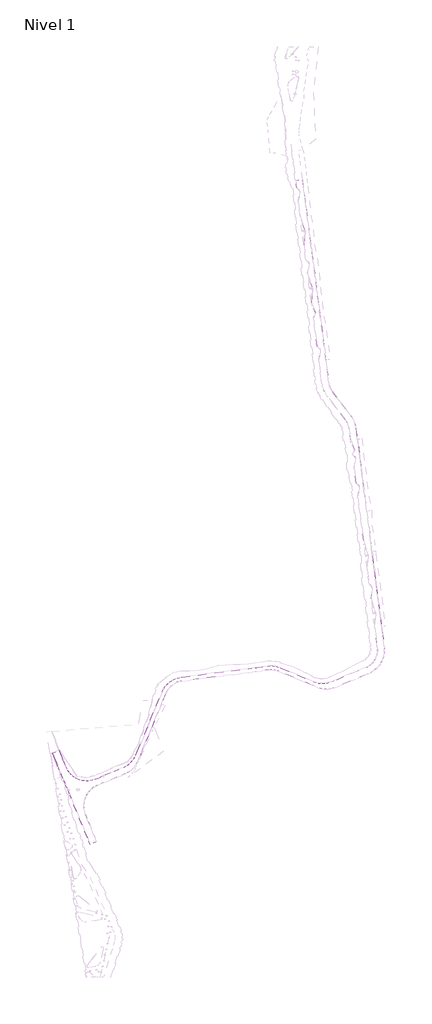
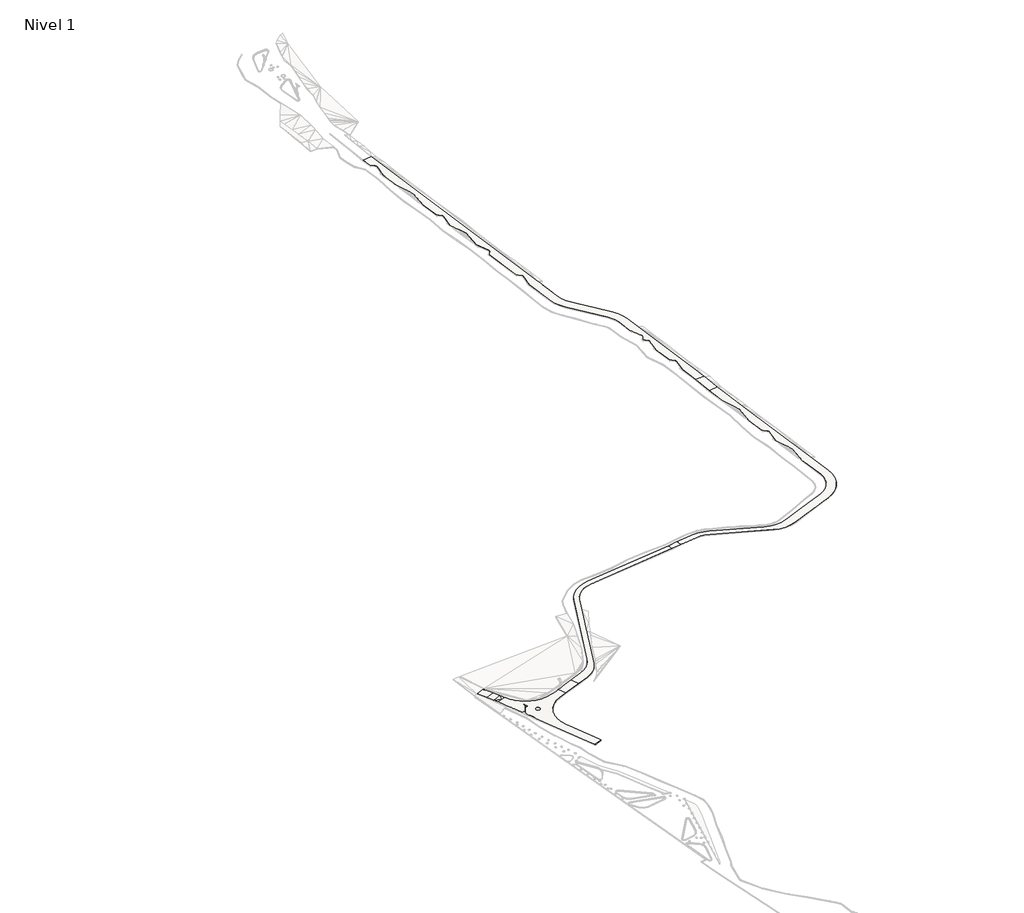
# One storey, part 29 of 45: 1 slab.
"""IFC4 building model written with IfcOpenShell, lengths in millimetres."""

from ifc_helpers import new_model, si_unit, frame, origin, place, context, project, spatial, polyline, circle_curve, element, save
from ifc_brep_helpers import plane_surface, cylinder_surface, revolved_surface, spline_surface, advanced_brep

model = new_model("IFC4")

# Units and contexts
model_context = context("Model", 3, world=origin())
ifc_project = project(units=[si_unit("LENGTHUNIT", "METRE", prefix="MILLI")], contexts=[model_context])

# Site, building, storey
site = spatial("IfcSite", under=ifc_project)
building = spatial("IfcBuilding", under=site)
storey = spatial("IfcBuildingStorey", under=building, Name="Nivel 1", Elevation=0.0)

# Slab
placement = place(None, origin())
element("IfcSlab", 1, ObjectType="Tierra Compactada", at=placement, inside=storey, context=model_context, shape_type="AdvancedBrep", body=[
    advanced_brep(
    [(-352665.3018299, 336963.197176, 4400.0), (-352665.3018299, 336963.197176, 4750.0), (-357011.1986247, 335173.4534492, 4750.0), (-357011.1986247, 335173.4534492, 4400.0), (-358915.1811182, 339796.7474214, 4750.0), (-370076.2675621, 366898.353583, 4750.0), (-370076.2675621, 366898.353583, 4400.0), (-358915.1811182, 339796.7474214, 4400.0), (-382908.3949289, 398057.6196509, 3713.25037), (-382908.3949289, 398057.6196509, 4063.25037), (-378562.4990268, 399847.3630097, 4063.25037), (-378562.4990268, 399847.3630097, 3713.25037), (-376471.3000723, 394769.466992, 4368.6279416), (-374848.2666468, 390828.3809703, 4605.6393485), (-373859.6975063, 388427.9152992, 4750.0), (-373859.6975063, 388427.9152992, 4400.0), (-374848.2666468, 390828.3809703, 4255.6393485), (-376471.3000723, 394769.466992, 4018.6279416), (-346322.2966148, 383221.7255332, 4304.0456139), (-346322.2966148, 383221.7255332, 4654.0456139), (-340624.7029284, 385568.1302011, 4500.0), (-340624.7029284, 385568.1302011, 4150.0), (-334049.1688312, 388276.09163, 4500.0), (-334049.1688312, 388276.09163, 4150.0), (-325751.9814359, 396539.4703663, 4500.0), (-325751.9814359, 396539.4703663, 4150.0), (-307635.1753968, 440025.9933123, 4500.0), (-307635.1753968, 440025.9933123, 4150.0), (-294501.2773884, 450046.7871218, 4500.0), (-294501.2773884, 450046.7871218, 4150.0), (-248539.8625301, 455936.3664275, 4500.0), (-243580.4146112, 456571.8791053, 4750.0), (-235024.9464339, 457668.1923603, 4750.0), (-235024.9464339, 457668.1923603, 4400.0), (-243580.4146111, 456571.8791053, 4400.0), (-248539.8625301, 455936.3664275, 4150.0), (-234681.7696475, 454990.0904778, 4400.0), (-234681.7696475, 454990.0904778, 4750.0), (-243237.2377654, 453893.7772305, 4750.0), (-248196.6856832, 453258.264553, 4500.0), (-294158.1005383, 447368.6852481, 4500.0), (-294158.1005383, 447368.6852481, 4150.0), (-248196.6856832, 453258.264553, 4150.0), (-243237.2377654, 453893.7772305, 4400.0), (-305142.8152393, 438987.6576961, 4500.0), (-305142.8152393, 438987.6576961, 4150.0), (-324825.226723, 391743.1468952, 4500.0), (-324825.226723, 391743.1468952, 4150.0), (-332959.7241698, 383641.7951927, 4500.0), (-332959.7241698, 383641.7951927, 4150.0), (-338834.9592686, 381222.2335523, 4500.0), (-348081.5608771, 377414.2629608, 4750.0), (-352096.4499143, 375760.8361096, 4750.0), (-352096.4499143, 375760.8361096, 4400.0), (-348081.5608771, 377414.2629608, 4400.0), (-338834.9592686, 381222.2335523, 4150.0), (-360417.5437535, 355787.368954, 4750.0), (-360417.5437535, 355787.368954, 4400.0), (-358326.2992921, 350709.3611422, 4750.0), (-358326.2992921, 350709.3611422, 4400.0), (-354569.2844071, 341586.4913692, 4750.0), (-354569.2844071, 341586.4913692, 4400.0), (-226582.3702869, 456533.104083, 4750.0), (-226582.3702869, 456533.104083, 4400.0), (-203462.4920098, 446901.1923558, 4750.0), (-203462.4920098, 446901.1923558, 4400.0), (-191752.4033991, 446877.2860109, 4750.0), (-191752.4033991, 446877.2860109, 4400.0), (-187940.3370927, 448447.18563, 4750.0), (-187940.3370927, 448447.18563, 4400.0), (-167651.977673, 456802.4148667, 4750.0), (-167651.977673, 456802.4148667, 4400.0), (-159832.2945725, 470282.8722606, 4750.0), (-159832.2945725, 470282.8722606, 4400.0), (-161624.826915, 484116.6855752, 4750.0), (-161624.826915, 484116.6855752, 4400.0), (-179317.6514514, 620660.5156819, 4900.0), (-179317.6514514, 620660.5156819, 5250.0), (-181840.7207033, 626787.0903533, 5250.0), (-181840.7207033, 626787.0903533, 4900.0), (-194531.0540131, 643395.5499659, 5250.0), (-194531.0540131, 643395.5499659, 4900.0), (-197980.6257425, 651771.8087073, 4900.0), (-197980.6257425, 651771.8087073, 5250.0), (-199977.9890221, 667186.3984903, 5250.0), (-199977.9890221, 667186.3984903, 4900.0), (-216043.4396896, 791171.0207414, 4900.0), (-216043.4396896, 791171.0207414, 5250.0), (-211382.4061344, 791774.9795489, 5250.0), (-211382.4061344, 791774.9795489, 4900.0), (-193319.5921919, 652375.7675163, 5250.0), (-193319.5921919, 652375.7675163, 4900.0), (-190796.522939, 646249.192842, 5250.0), (-190796.522939, 646249.192842, 4900.0), (-178106.1266431, 629640.6507967, 5250.0), (-178106.1266431, 629640.6507967, 4900.0), (-174656.6179001, 621264.4744874, 5250.0), (-174656.6179001, 621264.4744874, 4900.0), (-167246.1137856, 564074.1365201, 5250.0), (-165961.0950468, 554157.0438593, 4750.0), (-155171.2610218, 470886.8310678, 4750.0), (-155171.2610218, 470886.8310678, 4400.0), (-165961.0950468, 554157.0438593, 4400.0), (-167246.1137856, 564074.1365201, 4900.0), (-165862.2340133, 452456.5182234, 4750.0), (-165862.2340133, 452456.5182234, 4400.0), (-189262.3607157, 442819.7891691, 4750.0), (-189262.3607157, 442819.7891691, 4400.0), (-200742.839752, 442843.2267494, 4750.0), (-200742.839752, 442843.2267494, 4400.0), (-227620.7059592, 454040.7439218, 4750.0), (-227620.7059592, 454040.7439218, 4400.0), (-349858.7717303, 381729.7271639, 4750.0), (-350739.6203091, 381132.1965339, 4750.0), (-352681.4037846, 380332.5239002, 4750.0), (-353886.1935709, 380106.7327556, 4750.0), (-365596.2949471, 380130.6444072, 4750.0), (-367357.9476604, 381001.2663959, 4750.0), (-376013.4375482, 387486.8102321, 4750.0), (-378205.5698705, 386638.1119516, 4750.0), (-375795.5826574, 380786.1257105, 4750.0), (-374293.1443412, 377137.870522, 4750.0), (-373191.2603463, 374462.250526, 4750.0), (-372503.0625823, 373447.6718442, 4750.0), (-372015.6430627, 372264.1085187, 4750.0), (-371789.8518924, 371059.3183605, 4750.0), (-371101.7313437, 370044.9268375, 4750.0), (-370302.0587067, 368103.1433639, 4750.0), (-366378.1764563, 372855.3859913, 4750.0), (-364278.1764563, 372855.3859913, 4750.0), (-370302.0587067, 368103.1433639, 4400.0), (-371101.7313437, 370044.9268375, 4400.0), (-371789.8518924, 371059.3183605, 4400.0), (-372015.6430627, 372264.1085187, 4400.0), (-372503.0625823, 373447.6718442, 4400.0), (-373191.2603463, 374462.250526, 4400.0), (-374293.1443412, 377137.870522, 4400.0), (-375795.5826574, 380786.1257105, 4400.0), (-378205.5698705, 386638.1119516, 4400.0), (-376013.4375482, 387486.8102321, 4400.0), (-367357.9476604, 381001.2663959, 4400.0), (-365596.2949471, 380130.6444072, 4400.0), (-353886.1935709, 380106.7327556, 4400.0), (-352681.4037846, 380332.5239002, 4400.0), (-350739.6203091, 381132.1965339, 4400.0), (-349858.7717303, 381729.7271639, 4400.0), (-366378.1764563, 372855.3859913, 4400.0), (-364278.1764563, 372855.3859913, 4400.0), (-170622.1285981, 553553.0850515, 4750.0), (-169338.6081218, 543647.5551851, 4750.0), (-166066.5549083, 533976.2516549, 4750.0), (-166765.7924631, 523791.9293428, 4750.0), (-165488.2655648, 513932.6547307, 4750.0), (-163586.1223863, 512101.9743274, 4750.0), (-163236.5023, 511156.3870508, 4750.0), (-164192.0958272, 503958.9271977, 4750.0), (-160925.4082257, 494303.510444, 4750.0), (-160925.4082257, 494303.510444, 4400.0), (-164192.0958272, 503958.9271977, 4400.0), (-163236.5023, 511156.3870508, 4400.0), (-163586.1223863, 512101.9743274, 4400.0), (-165488.2655648, 513932.6547307, 4400.0), (-166765.7924631, 523791.9293428, 4400.0), (-166066.5549083, 533976.2516549, 4400.0), (-169338.6081218, 543647.5551851, 4400.0), (-170622.1285981, 553553.0850515, 4400.0), (-215407.785206, 786265.376782, 5250.0), (-213499.824294, 784429.0744036, 5250.0), (-213154.1222704, 783498.4930944, 5250.0), (-214113.2176747, 776274.5916073, 5250.0), (-212832.794568, 766392.9655953, 5250.0), (-209559.6675729, 756718.4882576, 5250.0), (-210259.1362671, 746530.8366807, 5250.0), (-208982.6381189, 736679.5014153, 5250.0), (-207073.2746585, 734841.8411961, 5250.0), (-206730.6761136, 733903.0743397, 5250.0), (-207686.2689375, 726705.5542697, 5250.0), (-204419.5906198, 717050.1374763, 5250.0), (-205117.6837799, 706882.520338, 5250.0), (-202359.121557, 700167.9750214, 5250.0), (-202454.2396451, 699168.1953076, 5250.0), (-203829.3073429, 696908.8293797, 5250.0), (-201272.1748478, 677174.2378634, 5250.0), (-199366.6807698, 675339.993084, 5250.0), (-199019.9175106, 674397.0706424, 5250.0), (-178334.7850986, 613075.2747819, 5250.0), (-175570.7025337, 606344.7661615, 5250.0), (-175664.8189893, 605346.2677528, 5250.0), (-177005.5067574, 603144.0704339, 5250.0), (-175146.8008777, 601355.1954069, 5250.0), (-174802.4048673, 600414.6819461, 5250.0), (-175759.8489322, 593203.2839796, 5250.0), (-174483.8900528, 583356.1105053, 5250.0), (-172579.5480736, 581523.3410137, 5250.0), (-172232.6922349, 580580.46722, 5250.0), (-173189.9699727, 573370.3220163, 5250.0), (-171907.1473369, 563470.1777123, 5250.0), (-171907.1473369, 563470.1777123, 4900.0), (-173189.9699727, 573370.3220163, 4900.0), (-172232.6922349, 580580.46722, 4900.0), (-172579.5480736, 581523.3410137, 4900.0), (-174483.8900528, 583356.1105053, 4900.0), (-175759.8489322, 593203.2839796, 4900.0), (-174802.4048673, 600414.6819461, 4900.0), (-175146.8008777, 601355.1954069, 4900.0), (-177005.5067574, 603144.0704339, 4900.0), (-175664.8189893, 605346.2677528, 4900.0), (-175570.7025337, 606344.7661615, 4900.0), (-178334.7850986, 613075.2747819, 4900.0), (-199019.9175106, 674397.0706424, 4900.0), (-199366.6807698, 675339.993084, 4900.0), (-201272.1748478, 677174.2378634, 4900.0), (-203829.3073429, 696908.8293797, 4900.0), (-202454.2396451, 699168.1953076, 4900.0), (-202359.121557, 700167.9750214, 4900.0), (-205117.6837799, 706882.520338, 4900.0), (-204419.5906198, 717050.1374763, 4900.0), (-207686.2689375, 726705.5542697, 4900.0), (-206730.6761136, 733903.0743397, 4900.0), (-207073.2746585, 734841.8411961, 4900.0), (-208982.6381189, 736679.5014153, 4900.0), (-210259.1362671, 746530.8366807, 4900.0), (-209559.6675729, 756718.4882576, 4900.0), (-212832.794568, 766392.9655953, 4900.0), (-214113.2176747, 776274.5916073, 4900.0), (-213154.1222704, 783498.4930944, 4900.0), (-213499.824294, 784429.0744036, 4900.0), (-215407.785206, 786265.376782, 4900.0), (-379194.163178, 389038.6369011, 4613.5820954), (-380817.1962591, 392979.7230645, 4381.4217524), (-380817.1962591, 392979.7230645, 4031.4217524), (-379194.163178, 389038.6369011, 4263.5820954), (-349725.228789, 381820.3170789, 4746.0505558), (-349725.228789, 381820.3170789, 4396.0505558), (-348520.4386289, 382046.1082482, 4716.0505883), (-348520.4386289, 382046.1082482, 4366.0505883), (-347336.8753034, 382533.527766, 4684.050634), (-347336.8753034, 382533.527766, 4334.050634)],
    [
        (0, 1),
        (1, 2),
        (2, 3),
        (3, 0),
        (2, 4),
        (4, 5),
        (5, 6),
        (6, 7),
        (7, 3),
        (8, 9),
        (9, 10),
        (10, 11),
        (11, 8),
        (10, 12),
        (12, 13),
        (13, 14),
        (14, 15),
        (15, 16),
        (16, 17),
        (17, 11),
        (18, 19),
        (19, 20),
        (20, 21),
        (21, 18),
        (20, 22),
        (22, 23),
        (23, 21),
        (22, 24, circle_curve(frame((-339875.3556572, 402423.3721835, 4500.0), z_axis=(0.0, 0.0, 1.0), x_axis=(1.0, 0.0, 0.0)), 15299.9999997)),
        (24, 25),
        (25, 23, circle_curve(frame((-339875.3556572, 402423.3721835, 4150.0), z_axis=(0.0, 0.0, -1.0), x_axis=(1.0, 0.0, 0.0)), 15299.9999997)),
        (24, 26),
        (26, 27),
        (27, 25),
        (26, 28, circle_curve(frame((-292404.0855532, 433680.6090008, 4500.0), z_axis=(0.0, 0.0, -1.0), x_axis=(1.0, 0.0, 0.0)), 16499.9999964)),
        (28, 29),
        (29, 27, circle_curve(frame((-292404.0855532, 433680.6090008, 4150.0), z_axis=(0.0, 0.0, 1.0), x_axis=(1.0, 0.0, 0.0)), 16499.9999964)),
        (28, 30),
        (30, 31),
        (31, 32),
        (32, 33),
        (33, 34),
        (34, 35),
        (35, 29),
        (36, 37),
        (37, 38),
        (38, 39),
        (39, 40),
        (40, 41),
        (41, 42),
        (42, 43),
        (43, 36),
        (40, 44, circle_curve(frame((-292404.0855485, 433680.6089977, 4500.0), z_axis=(0.0, 0.0, 1.0), x_axis=(1.0, 0.0, 0.0)), 13800.0000008)),
        (44, 45),
        (45, 41, circle_curve(frame((-292404.0855485, 433680.6089977, 4150.0), z_axis=(0.0, 0.0, -1.0), x_axis=(1.0, 0.0, 0.0)), 13800.0000008)),
        (44, 46),
        (46, 47),
        (47, 45),
        (46, 48, circle_curve(frame((-338671.6720387, 397511.678089, 4500.0), z_axis=(0.0, 0.0, -1.0), x_axis=(1.0, 0.0, 0.0)), 15000.0000004)),
        (48, 49),
        (49, 47, circle_curve(frame((-338671.6720387, 397511.678089, 4150.0), z_axis=(0.0, 0.0, 1.0), x_axis=(1.0, 0.0, 0.0)), 15000.0000004)),
        (48, 50),
        (50, 51),
        (51, 52),
        (52, 53),
        (53, 54),
        (54, 55),
        (55, 49),
        (52, 56, circle_curve(frame((-346270.263105, 361613.5555492, 4750.0), z_axis=(0.0, 0.0, 1.0), x_axis=(1.0, 0.0, 0.0)), 15299.9999997)),
        (56, 57),
        (57, 53, circle_curve(frame((-346270.263105, 361613.5555492, 4400.0), z_axis=(0.0, 0.0, -1.0), x_axis=(1.0, 0.0, 0.0)), 15299.9999997)),
        (56, 58),
        (58, 59),
        (59, 57),
        (58, 60),
        (60, 1),
        (0, 61),
        (61, 59),
        (32, 62, circle_curve(frame((-232927.7545984, 441302.0142372, 4750.0), z_axis=(0.0, 0.0, -1.0), x_axis=(1.0, 0.0, 0.0)), 16499.9999986)),
        (62, 63),
        (63, 33, circle_curve(frame((-232927.7545984, 441302.0142372, 4400.0), z_axis=(0.0, 0.0, 1.0), x_axis=(1.0, 0.0, 0.0)), 16499.9999986)),
        (62, 64),
        (64, 65),
        (65, 63),
        (64, 66, circle_curve(frame((-197578.5901933, 461024.5665775, 4750.0), z_axis=(0.0, 0.0, 1.0), x_axis=(1.0, 0.0, 0.0)), 15299.9999998)),
        (66, 67),
        (67, 65, circle_curve(frame((-197578.5901933, 461024.5665775, 4400.0), z_axis=(0.0, 0.0, -1.0), x_axis=(1.0, 0.0, 0.0)), 15299.9999998)),
        (66, 68),
        (68, 69),
        (69, 67),
        (68, 70),
        (70, 71),
        (71, 69),
        (70, 72, circle_curve(frame((-172526.173178, 468638.048275, 4750.0), z_axis=(0.0, 0.0, 1.0), x_axis=(1.0, 0.0, 0.0)), 12799.9999999)),
        (72, 73),
        (73, 71, circle_curve(frame((-172526.173178, 468638.048275, 4400.0), z_axis=(0.0, 0.0, -1.0), x_axis=(1.0, 0.0, 0.0)), 12799.9999999)),
        (72, 74),
        (74, 75),
        (75, 73),
        (76, 77),
        (77, 78, circle_curve(frame((-192011.530057, 619015.6916963, 5250.0), z_axis=(0.0, 0.0, 1.0), x_axis=(1.0, 0.0, 0.0)), 12799.9999999)),
        (78, 79),
        (79, 76, circle_curve(frame((-192011.530057, 619015.6916963, 4900.0), z_axis=(0.0, 0.0, -1.0), x_axis=(1.0, 0.0, 0.0)), 12799.9999999)),
        (78, 80),
        (80, 81),
        (81, 79),
        (82, 83),
        (83, 84),
        (84, 85),
        (85, 82),
        (86, 87),
        (87, 88),
        (88, 89),
        (89, 86),
        (88, 90),
        (90, 91),
        (91, 89),
        (90, 92, circle_curve(frame((-180625.7135814, 654020.591502, 5250.0), z_axis=(0.0, 0.0, 1.0), x_axis=(1.0, 0.0, 0.0)), 12800.0000047)),
        (92, 93),
        (93, 91, circle_curve(frame((-180625.7135814, 654020.591502, 4900.0), z_axis=(0.0, 0.0, -1.0), x_axis=(1.0, 0.0, 0.0)), 12800.0000047)),
        (92, 94),
        (94, 95),
        (95, 93),
        (94, 96, circle_curve(frame((-192011.5300574, 619015.6916944, 5250.0), z_axis=(0.0, 0.0, -1.0), x_axis=(1.0, 0.0, 0.0)), 17500.000001)),
        (96, 97),
        (97, 95, circle_curve(frame((-192011.5300574, 619015.6916944, 4900.0), z_axis=(0.0, 0.0, 1.0), x_axis=(1.0, 0.0, 0.0)), 17500.000001)),
        (96, 98),
        (98, 99),
        (99, 100),
        (100, 101),
        (101, 102),
        (102, 103),
        (103, 97),
        (100, 104, circle_curve(frame((-172526.173178, 468638.0482749, 4750.0), z_axis=(0.0, 0.0, -1.0), x_axis=(1.0, 0.0, 0.0)), 17500.0)),
        (104, 105),
        (105, 101, circle_curve(frame((-172526.173178, 468638.0482749, 4400.0), z_axis=(0.0, 0.0, 1.0), x_axis=(1.0, 0.0, 0.0)), 17500.0)),
        (104, 106),
        (106, 107),
        (107, 105),
        (106, 108, circle_curve(frame((-194974.3085717, 456689.672072, 4750.0), z_axis=(0.0, 0.0, -1.0), x_axis=(1.0, 0.0, 0.0)), 15000.0000017)),
        (108, 109),
        (109, 107, circle_curve(frame((-194974.3085717, 456689.672072, 4400.0), z_axis=(0.0, 0.0, 1.0), x_axis=(1.0, 0.0, 0.0)), 15000.0000017)),
        (108, 110),
        (110, 111),
        (111, 109),
        (110, 37, circle_curve(frame((-232927.7546545, 441302.0142024, 4750.0), z_axis=(0.0, 0.0, 1.0), x_axis=(1.0, 0.0, 0.0)), 13800.000026)),
        (36, 111, circle_curve(frame((-232927.7546545, 441302.0142024, 4400.0), z_axis=(0.0, 0.0, -1.0), x_axis=(1.0, 0.0, 0.0)), 13800.000026)),
        (51, 112),
        (112, 113),
        (113, 114),
        (114, 115),
        (115, 116, circle_curve(frame((-359712.3803791, 394254.0133172, 4750.0), z_axis=(0.0, 0.0, -1.0), x_axis=(1.0, 0.0, 0.0)), 15300.0000004)),
        (116, 117, circle_curve(frame((-359712.3803791, 394254.0133172, 4750.0), z_axis=(0.0, 0.0, -1.0), x_axis=(1.0, 0.0, 0.0)), 15300.0000004)),
        (117, 14, circle_curve(frame((-359712.3803791, 394254.0133172, 4750.0), z_axis=(0.0, 0.0, -1.0), x_axis=(1.0, 0.0, 0.0)), 15300.0000004)),
        (14, 118),
        (118, 119),
        (119, 120),
        (120, 121),
        (121, 122),
        (122, 123),
        (123, 124),
        (124, 125),
        (125, 126),
        (126, 127),
        (127, 5),
        (128, 129, circle_curve(frame((-365328.1764563, 372855.3859913, 4750.0), z_axis=(0.0, 0.0, -1.0), x_axis=(1.0, 0.0, 0.0)), 1050.0)),
        (129, 128, circle_curve(frame((-365328.1764563, 372855.3859913, 4750.0), z_axis=(0.0, 0.0, -1.0), x_axis=(1.0, 0.0, 0.0)), 1050.0)),
        (6, 130),
        (130, 131),
        (131, 132),
        (132, 133),
        (133, 134),
        (134, 135),
        (135, 136),
        (136, 137),
        (137, 138),
        (138, 139),
        (139, 15),
        (15, 140, circle_curve(frame((-359712.3803791, 394254.0133172, 4400.0), z_axis=(0.0, 0.0, 1.0), x_axis=(1.0, 0.0, 0.0)), 15300.0000004)),
        (140, 141, circle_curve(frame((-359712.3803791, 394254.0133172, 4400.0), z_axis=(0.0, 0.0, 1.0), x_axis=(1.0, 0.0, 0.0)), 15300.0000004)),
        (141, 142, circle_curve(frame((-359712.3803791, 394254.0133172, 4400.0), z_axis=(0.0, 0.0, 1.0), x_axis=(1.0, 0.0, 0.0)), 15300.0000004)),
        (142, 143),
        (143, 144),
        (144, 145),
        (145, 54),
        (146, 147, circle_curve(frame((-365328.1764563, 372855.3859913, 4400.0), z_axis=(0.0, 0.0, 1.0), x_axis=(1.0, 0.0, 0.0)), 1050.0)),
        (147, 146, circle_curve(frame((-365328.1764563, 372855.3859913, 4400.0), z_axis=(0.0, 0.0, 1.0), x_axis=(1.0, 0.0, 0.0)), 1050.0)),
        (39, 30),
        (20, 50),
        (55, 21),
        (35, 42),
        (99, 148),
        (148, 149),
        (149, 150),
        (150, 151),
        (151, 152),
        (152, 153),
        (153, 154, circle_curve(frame((-164380.8044938, 511270.7220489, 4750.0), z_axis=(0.0, 0.0, -1.0), x_axis=(1.0, 0.0, 0.0)), 1150.0000011)),
        (154, 155),
        (155, 156),
        (156, 74),
        (31, 38),
        (43, 34),
        (75, 157),
        (157, 158),
        (158, 159),
        (159, 160, circle_curve(frame((-164380.8044938, 511270.7220489, 4400.0), z_axis=(0.0, 0.0, 1.0), x_axis=(1.0, 0.0, 0.0)), 1150.0000011)),
        (160, 161),
        (161, 162),
        (162, 163),
        (163, 164),
        (164, 165),
        (165, 102),
        (87, 166),
        (166, 167),
        (167, 168, circle_curve(frame((-214299.4041498, 783602.5350161, 5250.0), z_axis=(0.0, 0.0, -1.0), x_axis=(1.0, 0.0, 0.0)), 1149.9979587)),
        (168, 169),
        (169, 170),
        (170, 171),
        (171, 172),
        (172, 173),
        (173, 174),
        (174, 175, circle_curve(frame((-207874.9829101, 734017.3632527, 5250.0), z_axis=(0.0, 0.0, -1.0), x_axis=(1.0, 0.0, 0.0)), 1150.0)),
        (175, 176),
        (176, 177),
        (177, 178),
        (178, 179),
        (179, 180, circle_curve(frame((-203436.6063179, 699766.0713145, 5250.0), z_axis=(0.0, 0.0, -1.0), x_axis=(1.0, 0.0, 0.0)), 1149.9999998)),
        (180, 181),
        (181, 182),
        (182, 183),
        (183, 184, circle_curve(frame((-200164.2127988, 674511.4747291, 5250.0), z_axis=(0.0, 0.0, -1.0), x_axis=(1.0, 0.0, 0.0)), 1150.0000007)),
        (184, 84),
        (83, 80, circle_curve(frame((-180625.7135884, 654020.5914999, 5250.0), z_axis=(0.0, 0.0, 1.0), x_axis=(1.0, 0.0, 0.0)), 17499.9999978)),
        (77, 185),
        (185, 186),
        (186, 187, circle_curve(frame((-176648.1023864, 605942.6348904, 5250.0), z_axis=(0.0, 0.0, -1.0), x_axis=(1.0, 0.0, 0.0)), 1150.0000009)),
        (187, 188),
        (188, 189),
        (189, 190, circle_curve(frame((-175946.7114283, 600528.9732149, 5250.0), z_axis=(0.0, 0.0, -1.0), x_axis=(1.0, 0.0, 0.0)), 1149.9999998)),
        (190, 191),
        (191, 192),
        (192, 193),
        (193, 194, circle_curve(frame((-173377.0000821, 580694.7456362, 5250.0), z_axis=(0.0, 0.0, -1.0), x_axis=(1.0, 0.0, 0.0)), 1150.0000025)),
        (194, 195),
        (195, 196),
        (196, 98),
        (103, 197),
        (197, 198),
        (198, 199),
        (199, 200, circle_curve(frame((-173377.0000821, 580694.7456362, 4900.0), z_axis=(0.0, 0.0, 1.0), x_axis=(1.0, 0.0, 0.0)), 1150.0000025)),
        (200, 201),
        (201, 202),
        (202, 203),
        (203, 204, circle_curve(frame((-175946.7114283, 600528.9732149, 4900.0), z_axis=(0.0, 0.0, 1.0), x_axis=(1.0, 0.0, 0.0)), 1149.9999998)),
        (204, 205),
        (205, 206),
        (206, 207, circle_curve(frame((-176648.1023864, 605942.6348904, 4900.0), z_axis=(0.0, 0.0, 1.0), x_axis=(1.0, 0.0, 0.0)), 1150.0000009)),
        (207, 208),
        (208, 76),
        (81, 82, circle_curve(frame((-180625.7135884, 654020.5914999, 4900.0), z_axis=(0.0, 0.0, -1.0), x_axis=(1.0, 0.0, 0.0)), 17499.9999978)),
        (85, 209),
        (209, 210, circle_curve(frame((-200164.2127988, 674511.4747291, 4900.0), z_axis=(0.0, 0.0, 1.0), x_axis=(1.0, 0.0, 0.0)), 1150.0000007)),
        (210, 211),
        (211, 212),
        (212, 213),
        (213, 214, circle_curve(frame((-203436.6063179, 699766.0713145, 4900.0), z_axis=(0.0, 0.0, 1.0), x_axis=(1.0, 0.0, 0.0)), 1149.9999998)),
        (214, 215),
        (215, 216),
        (216, 217),
        (217, 218),
        (218, 219, circle_curve(frame((-207874.9829101, 734017.3632527, 4900.0), z_axis=(0.0, 0.0, 1.0), x_axis=(1.0, 0.0, 0.0)), 1150.0)),
        (219, 220),
        (220, 221),
        (221, 222),
        (222, 223),
        (223, 224),
        (224, 225),
        (225, 226, circle_curve(frame((-214299.4041498, 783602.5350161, 4900.0), z_axis=(0.0, 0.0, 1.0), x_axis=(1.0, 0.0, 0.0)), 1149.9979587)),
        (226, 227),
        (227, 86),
        (196, 148),
        (165, 197),
        (127, 130),
        (126, 131),
        (125, 132),
        (124, 133),
        (123, 134),
        (122, 135),
        (119, 228),
        (228, 229),
        (229, 9),
        (8, 230),
        (230, 231),
        (231, 138),
        (115, 142),
        (114, 143),
        (113, 144),
        (112, 232),
        (232, 233),
        (233, 145),
        (232, 234),
        (234, 235),
        (235, 233),
        (234, 236),
        (236, 237),
        (237, 235),
        (236, 19),
        (18, 237),
        (156, 157),
        (155, 158),
        (154, 159),
        (153, 160),
        (152, 161),
        (151, 162),
        (150, 163),
        (149, 164),
        (208, 185),
        (184, 209),
        (183, 210),
        (182, 211),
        (181, 212),
        (180, 213),
        (179, 214),
        (178, 215),
        (177, 216),
        (176, 217),
        (175, 218),
        (174, 219),
        (173, 220),
        (172, 221),
        (171, 222),
        (170, 223),
        (227, 166),
        (229, 12),
        (17, 230),
        (195, 198),
        (194, 199),
        (193, 200),
        (192, 201),
        (191, 202),
        (190, 203),
        (189, 204),
        (188, 205),
        (187, 206),
        (186, 207),
        (169, 224),
        (168, 225),
        (167, 226),
        (146, 128),
        (129, 147),
        (118, 228),
        (231, 139),
        (13, 118),
        (13, 228),
        (139, 16),
        (231, 16),
    ],
    [
        plane_surface(frame((-352665.3018299, 336963.197176, 5150.0), z_axis=(0.3807965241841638, -0.9246588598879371, 0.0), x_axis=(0.0, 0.0, 1.0))),
        plane_surface(frame((-357011.1986247, 335173.4534492, 5150.0), z_axis=(-0.9246588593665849, -0.3807965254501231, 0.0), x_axis=(0.0, 0.0, 1.0))),
        plane_surface(frame((-382908.3949289, 398057.6196509, 5150.0), z_axis=(-0.3807965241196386, 0.9246588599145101, 0.0), x_axis=(0.0, 0.0, 1.0))),
        plane_surface(frame((-378562.4990268, 399847.3630097, 5150.0), z_axis=(0.9246588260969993, 0.38079660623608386, 0.0), x_axis=(0.0, 0.0, 1.0))),
        plane_surface(frame((-346322.2966148, 383221.7255332, 5150.0), z_axis=(-0.3807965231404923, 0.9246588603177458, 0.0), x_axis=(0.0, 0.0, 1.0))),
        plane_surface(frame((-340624.7029284, 385568.1302011, 5150.0), z_axis=(-0.380796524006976, 0.9246588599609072, 0.0), x_axis=(0.0, 0.0, 1.0))),
        revolved_surface(polyline([(-324575.3556575, 402423.3721835, 4500.0), (-324575.3556575, 402423.3721835, 4150.0)]), (-339875.3556572, 402423.3721835, 5500.0), (0.0, 0.0, 1.0)),
        plane_surface(frame((-325751.9814359, 396539.4703663, 5150.0), z_axis=(-0.9230963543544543, 0.3845687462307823, 0.0), x_axis=(0.0, 0.0, 1.0))),
        cylinder_surface(frame((-292404.0855532, 433680.6090008, 5500.0), z_axis=(0.0, 0.0, -1.0), x_axis=(1.0, 0.0, 0.0)), 16499.9999964),
        plane_surface(frame((-294501.2773884, 450046.7871218, 5150.0), z_axis=(-0.12710253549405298, 0.9918895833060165, 0.0), x_axis=(0.0, 0.0, 1.0))),
        plane_surface(frame((-234681.7696475, 454990.0904778, 5150.0), z_axis=(0.12710253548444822, -0.9918895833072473, 0.0), x_axis=(0.0, 0.0, 1.0))),
        revolved_surface(polyline([(-278604.0855477, 433680.6089977, 4500.0), (-278604.0855477, 433680.6089977, 4150.0)]), (-292404.0855485, 433680.6089977, 5500.0), (0.0, 0.0, 1.0)),
        plane_surface(frame((-305142.8152393, 438987.6576961, 5150.0), z_axis=(0.9230963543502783, -0.3845687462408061, 0.0), x_axis=(0.0, 0.0, 1.0))),
        cylinder_surface(frame((-338671.6720387, 397511.678089, 5500.0), z_axis=(0.0, 0.0, -1.0), x_axis=(1.0, 0.0, 0.0)), 15000.0000004),
        plane_surface(frame((-332959.7241842, 383641.7951778, 5150.0), z_axis=(0.3807965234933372, -0.9246588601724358, 0.0), x_axis=(0.0, 0.0, 1.0))),
        revolved_surface(polyline([(-330970.2631053, 361613.5555492, 4750.0), (-330970.2631053, 361613.5555492, 4400.0)]), (-346270.263105, 361613.5555492, 5500.0), (0.0, 0.0, 1.0)),
        plane_surface(frame((-360417.5437535, 355787.368954, 5150.0), z_axis=(0.9246588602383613, 0.3807965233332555, 0.0), x_axis=(0.0, 0.0, 1.0))),
        plane_surface(frame((-358326.2992921, 350709.3611422, 5150.0), z_axis=(0.9246588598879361, 0.38079652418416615, 0.0), x_axis=(0.0, 0.0, 1.0))),
        cylinder_surface(frame((-232927.7545984, 441302.0142372, 5500.0), z_axis=(0.0, 0.0, -1.0), x_axis=(1.0, 0.0, 0.0)), 16499.9999986),
        plane_surface(frame((-226582.3702869, 456533.104083, 5150.0), z_axis=(0.3845687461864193, 0.9230963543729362, 0.0), x_axis=(0.0, 0.0, 1.0))),
        revolved_surface(polyline([(-182278.59019350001, 461024.5665775, 4750.0), (-182278.59019350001, 461024.5665775, 4400.0)]), (-197578.5901933, 461024.5665775, 5500.0), (0.0, 0.0, 1.0)),
        plane_surface(frame((-191752.4033991, 446877.2860109, 5150.0), z_axis=(-0.3807965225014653, 0.9246588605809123, 0.0), x_axis=(0.0, 0.0, 1.0))),
        plane_surface(frame((-187940.3370927, 448447.18563, 5150.0), z_axis=(-0.38079652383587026, 0.9246588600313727, 0.0), x_axis=(0.0, 0.0, 1.0))),
        revolved_surface(polyline([(-159726.1731781, 468638.048275, 4750.0), (-159726.1731781, 468638.048275, 4400.0)]), (-172526.173178, 468638.048275, 5500.0), (0.0, 0.0, 1.0)),
        plane_surface(frame((-159832.2945725, 470282.8722606, 5150.0), z_axis=(-0.991709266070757, -0.12850187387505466, 0.0), x_axis=(0.0, 0.0, 1.0))),
        revolved_surface(polyline([(-179211.5300571, 619015.6916963, 5250.0), (-179211.5300571, 619015.6916963, 4900.0)]), (-192011.530057, 619015.6916963, 5500.0), (0.0, 0.0, 1.0)),
        plane_surface(frame((-181840.7207033, 626787.0903533, 5150.0), z_axis=(-0.7945944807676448, -0.6071405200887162, 0.0), x_axis=(0.0, 0.0, 1.0))),
        plane_surface(frame((-197980.6257425, 651771.8087073, 5150.0), z_axis=(-0.9917092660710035, -0.12850187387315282, 0.0), x_axis=(0.0, 0.0, 1.0))),
        plane_surface(frame((-216043.4396896, 791171.0207414, 5150.0), z_axis=(-0.12850187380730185, 0.9917092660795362, 0.0), x_axis=(0.0, 0.0, 1.0))),
        plane_surface(frame((-211382.4061344, 791774.9795489, 5150.0), z_axis=(0.9917092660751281, 0.12850187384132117, 0.0), x_axis=(0.0, 0.0, 1.0))),
        revolved_surface(polyline([(-167825.71357669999, 654020.591502, 5250.0), (-167825.71357669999, 654020.591502, 4900.0)]), (-180625.7135814, 654020.591502, 5500.0), (0.0, 0.0, 1.0)),
        plane_surface(frame((-190796.522939, 646249.192842, 5150.0), z_axis=(0.7945944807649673, 0.6071405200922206, 0.0), x_axis=(0.0, 0.0, 1.0))),
        cylinder_surface(frame((-192011.5300574, 619015.6916944, 5500.0), z_axis=(0.0, 0.0, -1.0), x_axis=(1.0, 0.0, 0.0)), 17500.000001),
        plane_surface(frame((-174656.6179001, 621264.4744874, 5150.0), z_axis=(0.9917092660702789, 0.1285018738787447, 0.0), x_axis=(0.0, 0.0, 1.0))),
        cylinder_surface(frame((-172526.173178, 468638.0482749, 5500.0), z_axis=(0.0, 0.0, -1.0), x_axis=(1.0, 0.0, 0.0)), 17500.0),
        plane_surface(frame((-165862.2340133, 452456.5182234, 5150.0), z_axis=(0.38079652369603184, -0.9246588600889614, 0.0), x_axis=(0.0, 0.0, 1.0))),
        cylinder_surface(frame((-194974.3085717, 456689.672072, 5500.0), z_axis=(0.0, 0.0, -1.0), x_axis=(1.0, 0.0, 0.0)), 15000.0000017),
        plane_surface(frame((-200742.839752, 442843.2267494, 5150.0), z_axis=(-0.38456874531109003, -0.9230963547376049, 0.0), x_axis=(0.0, 0.0, 1.0))),
        revolved_surface(polyline([(-219127.7546285, 441302.0142024, 4750.0), (-219127.7546285, 441302.0142024, 4400.0)]), (-232927.7546545, 441302.0142024, 5500.0), (0.0, 0.0, 1.0)),
        plane_surface(frame((-363499.8223587, 371749.1005011, 4750.0), z_axis=(0.0, 0.0, 1.0), x_axis=(-0.38079652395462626, 0.9246588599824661, 0.0))),
        plane_surface(frame((-363499.8223587, 371749.1005011, 4400.0), z_axis=(0.0, 0.0, -1.0), x_axis=(-0.38079652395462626, 0.9246588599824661, 0.0))),
        plane_surface(frame((-307934.9733444, 417717.885183, 4500.0), z_axis=(0.0, 0.0, 1.0), x_axis=(1.0, 0.0, 0.0))),
        plane_surface(frame((-307934.9733444, 417717.885183, 4150.0), z_axis=(0.0, 0.0, -1.0), x_axis=(1.0, 0.0, 0.0))),
        plane_surface(frame((-186546.6555889, 482335.0426128, 4750.0), z_axis=(0.0, 0.0, 1.0), x_axis=(1.0, 0.0, 0.0))),
        plane_surface(frame((-186546.6555889, 482335.0426128, 4400.0), z_axis=(0.0, 0.0, -1.0), x_axis=(1.0, 0.0, 0.0))),
        plane_surface(frame((-245888.5501475, 454915.0718291, 4625.0), z_axis=(-0.04953260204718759, -0.006347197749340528, 0.9987523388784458), x_axis=(0.12710253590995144, -0.9918895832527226, 0.0))),
        plane_surface(frame((-245888.5501475, 454915.0718291, 4275.0), z_axis=(0.04953260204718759, 0.006347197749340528, -0.9987523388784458), x_axis=(0.12710253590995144, -0.9918895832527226, 0.0))),
        plane_surface(frame((-193465.4673883, 671880.5651474, 5250.0), z_axis=(0.0, 0.0, 1.0), x_axis=(1.0, 0.0, 0.0))),
        plane_surface(frame((-193465.4673883, 671880.5651474, 4900.0), z_axis=(0.0, 0.0, -1.0), x_axis=(1.0, 0.0, 0.0))),
        plane_surface(frame((-168934.1211918, 558813.6107858, 5000.0), z_axis=(0.006417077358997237, -0.049523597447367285, 0.9987523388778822), x_axis=(-0.12834154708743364, 0.9904719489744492, 0.04993761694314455))),
        plane_surface(frame((-168934.1211918, 558813.6107858, 4650.0), z_axis=(-0.006417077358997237, 0.049523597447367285, -0.9987523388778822), x_axis=(-0.12834154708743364, 0.9904719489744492, 0.04993761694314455))),
        plane_surface(frame((-370076.2675621, 366898.353583, 5150.0), z_axis=(-0.982887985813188, -0.1842042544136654, 0.0), x_axis=(0.0, 0.0, 1.0))),
        plane_surface(frame((-370302.0587067, 368103.1433639, 5150.0), z_axis=(-0.9246588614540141, -0.3807965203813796, 0.0), x_axis=(0.0, 0.0, 1.0))),
        plane_surface(frame((-371101.7313437, 370044.9268375, 5150.0), z_axis=(-0.8275578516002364, -0.5613804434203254, 0.0), x_axis=(0.0, 0.0, 1.0))),
        plane_surface(frame((-371789.8518924, 371059.3183605, 5150.0), z_axis=(-0.9828879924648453, -0.1842042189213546, 0.0), x_axis=(0.0, 0.0, 1.0))),
        plane_surface(frame((-372015.6430627, 372264.1085187, 5150.0), z_axis=(-0.9246588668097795, -0.38079650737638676, 0.0), x_axis=(0.0, 0.0, 1.0))),
        plane_surface(frame((-372503.0625823, 373447.6718442, 5150.0), z_axis=(-0.8275767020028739, -0.5613526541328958, 0.0), x_axis=(0.0, 0.0, 1.0))),
        plane_surface(frame((-373191.2603463, 374462.250526, 5150.0), z_axis=(-0.924658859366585, -0.38079652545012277, 0.0), x_axis=(0.0, 0.0, 1.0))),
        revolved_surface(polyline([(-344412.3803787, 394254.0133172, 4750.0), (-344412.3803787, 394254.0133172, 4400.0)]), (-359712.3803791, 394254.0133172, 5500.0), (0.0, 0.0, 1.0)),
        plane_surface(frame((-353886.1935709, 380106.7327556, 5150.0), z_axis=(-0.18420425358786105, 0.9828879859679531, 0.0), x_axis=(0.0, 0.0, 1.0))),
        plane_surface(frame((-352681.4037846, 380332.5239002, 5150.0), z_axis=(-0.3807965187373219, 0.9246588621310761, 0.0), x_axis=(0.0, 0.0, 1.0))),
        plane_surface(frame((-350739.6203091, 381132.1965339, 5150.0), z_axis=(-0.5613804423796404, 0.8275578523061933, 0.0), x_axis=(0.0, 0.0, 1.0))),
        plane_surface(frame((-349725.228789, 381820.3170789, 5150.0), z_axis=(-0.18420421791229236, 0.9828879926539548, 0.0), x_axis=(0.0, 0.0, 1.0))),
        plane_surface(frame((-348520.4386289, 382046.1082482, 5150.0), z_axis=(-0.38079650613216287, 0.9246588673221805, 0.0), x_axis=(0.0, 0.0, 1.0))),
        plane_surface(frame((-347336.8753034, 382533.527766, 5150.0), z_axis=(-0.5613526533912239, 0.8275767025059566, 0.0), x_axis=(0.0, 0.0, 1.0))),
        plane_surface(frame((-161624.826915, 484116.6855752, 5150.0), z_axis=(-0.9976512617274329, 0.06849788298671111, 0.0), x_axis=(0.0, 0.0, 1.0))),
        plane_surface(frame((-160925.4082257, 494303.510444, 5150.0), z_axis=(-0.9472546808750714, -0.3204817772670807, 0.0), x_axis=(0.0, 0.0, 1.0))),
        plane_surface(frame((-164192.0958272, 503958.9271977, 5150.0), z_axis=(-0.9913011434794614, 0.1316132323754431, 0.0), x_axis=(0.0, 0.0, 1.0))),
        revolved_surface(polyline([(-163230.8044927, 511270.7220489, 4750.0), (-163230.8044927, 511270.7220489, 4400.0)]), (-164380.8044938, 511270.7220489, 5500.0), (0.0, 0.0, 1.0)),
        plane_surface(frame((-163586.1223863, 512101.9743274, 5150.0), z_axis=(-0.693442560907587, -0.7205119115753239, 0.0), x_axis=(0.0, 0.0, 1.0))),
        plane_surface(frame((-165488.2655648, 513932.6547307, 5150.0), z_axis=(-0.9917092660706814, -0.12850187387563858, 0.0), x_axis=(0.0, 0.0, 1.0))),
        plane_surface(frame((-166765.7924631, 523791.9293428, 5150.0), z_axis=(-0.9976513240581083, 0.06849697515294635, 0.0), x_axis=(0.0, 0.0, 1.0))),
        plane_surface(frame((-166066.5549083, 533976.2516549, 5150.0), z_axis=(-0.9472549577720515, -0.3204809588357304, 0.0), x_axis=(0.0, 0.0, 1.0))),
        plane_surface(frame((-178334.7850986, 613075.2747819, 5150.0), z_axis=(-0.9917092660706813, -0.12850187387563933, 0.0), x_axis=(0.0, 0.0, 1.0))),
        cylinder_surface(frame((-180625.7135884, 654020.5914999, 5500.0), z_axis=(0.0, 0.0, -1.0), x_axis=(1.0, 0.0, 0.0)), 17499.9999978),
        plane_surface(frame((-199977.9890221, 667186.3984903, 5150.0), z_axis=(-0.9912881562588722, 0.1317110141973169, 0.0), x_axis=(0.0, 0.0, 1.0))),
        revolved_surface(polyline([(-199014.2127981, 674511.4747291, 5250.0), (-199014.2127981, 674511.4747291, 4900.0)]), (-200164.2127988, 674511.4747291, 5500.0), (0.0, 0.0, 1.0)),
        plane_surface(frame((-199366.6729851, 675340.0011711, 5150.0), z_axis=(-0.6935061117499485, -0.7204507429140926, 0.0), x_axis=(0.0, 0.0, 1.0))),
        plane_surface(frame((-201272.1748478, 677174.2378634, 5150.0), z_axis=(-0.9917092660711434, -0.12850187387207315, 0.0), x_axis=(0.0, 0.0, 1.0))),
        plane_surface(frame((-203829.3073429, 696908.8293797, 5150.0), z_axis=(-0.8542318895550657, 0.5198921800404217, 0.0), x_axis=(0.0, 0.0, 1.0))),
        revolved_surface(polyline([(-202286.6063181, 699766.0713145, 5250.0), (-202286.6063181, 699766.0713145, 4900.0)]), (-203436.6063179, 699766.0713145, 5500.0), (0.0, 0.0, 1.0)),
        plane_surface(frame((-202359.121557, 700167.9750214, 5150.0), z_axis=(-0.924980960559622, -0.38001345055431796, 0.0), x_axis=(0.0, 0.0, 1.0))),
        plane_surface(frame((-205117.6837799, 706882.520338, 5150.0), z_axis=(-0.9976513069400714, 0.06849722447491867, 0.0), x_axis=(0.0, 0.0, 1.0))),
        plane_surface(frame((-204419.5906198, 717050.1374763, 5150.0), z_axis=(-0.9472549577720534, -0.32048095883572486, 0.0), x_axis=(0.0, 0.0, 1.0))),
        plane_surface(frame((-207686.2689375, 726705.5542697, 5150.0), z_axis=(-0.9913012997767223, 0.13161205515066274, 0.0), x_axis=(0.0, 0.0, 1.0))),
        revolved_surface(polyline([(-206724.9829101, 734017.3632527, 5250.0), (-206724.9829101, 734017.3632527, 4900.0)]), (-207874.9829101, 734017.3632527, 5500.0), (0.0, 0.0, 1.0)),
        plane_surface(frame((-207073.2746585, 734841.8411962, 5150.0), z_axis=(-0.6934485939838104, -0.7205061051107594, 0.0), x_axis=(0.0, 0.0, 1.0))),
        plane_surface(frame((-208982.6381189, 736679.5014153, 5150.0), z_axis=(-0.9917092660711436, -0.12850187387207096, 0.0), x_axis=(0.0, 0.0, 1.0))),
        plane_surface(frame((-210259.1362671, 746530.8366807, 5150.0), z_axis=(-0.9976513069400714, 0.0684972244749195, 0.0), x_axis=(0.0, 0.0, 1.0))),
        plane_surface(frame((-209559.6675729, 756718.4882576, 5150.0), z_axis=(-0.947254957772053, -0.32048095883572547, 0.0), x_axis=(0.0, 0.0, 1.0))),
        plane_surface(frame((-215407.785206, 786265.376782, 5150.0), z_axis=(-0.9917092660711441, -0.1285018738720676, 0.0), x_axis=(0.0, 0.0, 1.0))),
        spline_surface(1, 1, [[(-382908.3949289, 398057.6196509, 4063.25037), (-378562.4990268, 399847.3630097, 4063.25037)], [(-380817.1962591, 392979.7230645, 4381.4217524), (-376471.3000723, 394769.466992, 4368.6279416)]], [2, 2], [2, 2], [0.0, 1.0], [0.0, 1.0]),
        spline_surface(1, 1, [[(-382908.3949289, 398057.6196509, 3713.25037), (-380817.1962591, 392979.7230645, 4031.4217524)], [(-378562.4990268, 399847.3630097, 3713.25037), (-376471.3000723, 394769.466992, 4018.6279416)]], [2, 2], [2, 2], [0.0, 1.0], [0.0, 1.0]),
        plane_surface(frame((-169338.6081218, 543647.5551851, 5150.0), z_axis=(-0.9917092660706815, -0.12850187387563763, 0.0), x_axis=(0.0, 0.0, 1.0))),
        plane_surface(frame((-173189.9699727, 573370.3220163, 5150.0), z_axis=(-0.9913011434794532, 0.1316132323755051, 0.0), x_axis=(0.0, 0.0, 1.0))),
        revolved_surface(polyline([(-172227.00007960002, 580694.7456362, 5250.0), (-172227.00007960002, 580694.7456362, 4900.0)]), (-173377.0000821, 580694.7456362, 5500.0), (0.0, 0.0, 1.0)),
        plane_surface(frame((-172579.5462691, 581523.3428887, 5150.0), z_axis=(-0.6934365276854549, -0.7205177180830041, 0.0), x_axis=(0.0, 0.0, 1.0))),
        plane_surface(frame((-174483.8900528, 583356.1105053, 5150.0), z_axis=(-0.9917092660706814, -0.12850187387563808, 0.0), x_axis=(0.0, 0.0, 1.0))),
        plane_surface(frame((-175759.8489322, 593203.2839796, 5150.0), z_axis=(-0.9913011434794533, 0.1316132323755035, 0.0), x_axis=(0.0, 0.0, 1.0))),
        revolved_surface(polyline([(-174796.7114285, 600528.9732149, 5250.0), (-174796.7114285, 600528.9732149, 4900.0)]), (-175946.7114283, 600528.9732149, 5500.0), (0.0, 0.0, 1.0)),
        plane_surface(frame((-175146.8008777, 601355.1954069, 5150.0), z_axis=(-0.6934425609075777, -0.720511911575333, 0.0), x_axis=(0.0, 0.0, 1.0))),
        plane_surface(frame((-177005.5067574, 603144.0704339, 5150.0), z_axis=(-0.8541606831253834, 0.520009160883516, 0.0), x_axis=(0.0, 0.0, 1.0))),
        revolved_surface(polyline([(-175498.10238549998, 605942.6348904, 5250.0), (-175498.10238549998, 605942.6348904, 4900.0)]), (-176648.1023864, 605942.6348904, 5500.0), (0.0, 0.0, 1.0)),
        plane_surface(frame((-175570.7025337, 606344.7661615, 5150.0), z_axis=(-0.9250310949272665, -0.37989139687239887, 0.0), x_axis=(0.0, 0.0, 1.0))),
        plane_surface(frame((-212832.794568, 766392.9655953, 5150.0), z_axis=(-0.9917092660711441, -0.12850187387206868, 0.0), x_axis=(0.0, 0.0, 1.0))),
        plane_surface(frame((-214113.2176747, 776274.5916073, 5150.0), z_axis=(-0.9913012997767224, 0.13161205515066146, 0.0), x_axis=(0.0, 0.0, 1.0))),
        revolved_surface(polyline([(-213149.4061911, 783602.5350161, 5250.0), (-213149.4061911, 783602.5350161, 4900.0)]), (-214299.4041498, 783602.5350161, 5500.0), (0.0, 0.0, 1.0)),
        plane_surface(frame((-213499.824294, 784429.0744036, 5150.0), z_axis=(-0.6934470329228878, -0.7205076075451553, 0.0), x_axis=(0.0, 0.0, 1.0))),
        plane_surface(frame((-346163.1042675, 381944.5040631, 4662.524674), z_axis=(0.023109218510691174, 0.009516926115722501, 0.9996876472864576), x_axis=(-0.9243700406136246, -0.3806775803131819, 0.024992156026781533))),
        plane_surface(frame((-346163.1042675, 381944.5040631, 4312.524674), z_axis=(-0.023109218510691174, -0.009516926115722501, -0.9996876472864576), x_axis=(-0.9243700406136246, -0.3806775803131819, 0.024992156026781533))),
        revolved_surface(polyline([(-364278.1764563, 372855.3859913, 4750.0), (-364278.1764563, 372855.3859913, 4400.0)]), (-365328.1764563, 372855.3859913, 0.0), (0.0, 0.0, 1.0)),
        plane_surface(frame((-377804.3901989, 387721.1863616, 4704.5273651), z_axis=(-0.01894978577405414, 0.048946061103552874, 0.998621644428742), x_axis=(0.9325493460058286, 0.3610425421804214, 0.0))),
        plane_surface(frame((-377804.3901989, 387721.1863616, 4354.5273651), z_axis=(0.01894978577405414, -0.048946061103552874, -0.998621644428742), x_axis=(0.9325493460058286, 0.3610425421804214, 0.0))),
        plane_surface(frame((-374907.1339004, 388914.3688339, 4701.8797828), z_axis=(-0.022236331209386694, 0.050888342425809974, 0.9984567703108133), x_axis=(-0.3802092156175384, 0.9232325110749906, -0.05552191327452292))),
        plane_surface(frame((-376685.2891243, 389117.9427012, 4656.4071479), z_axis=(-0.018614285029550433, 0.04963130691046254, 0.9985941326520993), x_axis=(0.3289742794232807, 0.9434588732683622, -0.04075877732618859))),
        plane_surface(frame((-374907.1339004, 388914.3688339, 4351.8797828), z_axis=(0.022236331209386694, -0.050888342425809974, -0.9984567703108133), x_axis=(-0.3802092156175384, 0.9232325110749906, -0.05552191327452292))),
        plane_surface(frame((-376685.2891243, 389117.9427012, 4306.4071479), z_axis=(0.018614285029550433, -0.04963130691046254, -0.9985941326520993), x_axis=(0.3289742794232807, 0.9434588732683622, -0.04075877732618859))),
        spline_surface(1, 1, [[(-374848.2666468, 390828.3809703, 4605.6393485), (-379194.163178, 389038.6369011, 4613.5820954)], [(-376471.3000723, 394769.466992, 4368.6279416), (-380817.1962591, 392979.7230645, 4381.4217524)]], [2, 2], [2, 2], [0.0, 1.0], [0.0, 1.0]),
        spline_surface(1, 1, [[(-374848.2666468, 390828.3809703, 4255.6393485), (-376471.3000723, 394769.466992, 4018.6279416)], [(-379194.163178, 389038.6369011, 4263.5820954), (-380817.1962591, 392979.7230645, 4031.4217524)]], [2, 2], [2, 2], [0.0, 1.0], [0.0, 1.0]),
    ],
    [
        (0, [[1, 2, 3, 4]]),
        (1, [[-3, 5, 6, 7, 8, 9]]),
        (2, [[10, 11, 12, 13]]),
        (3, [[-12, 14, 15, 16, 17, 18, 19, 20]]),
        (4, [[21, 22, 23, 24]]),
        (5, [[-23, 25, 26, 27]]),
        (6, [[-26, 28, 29, 30]]),
        (7, [[-29, 31, 32, 33]]),
        (8, [[-32, 34, 35, 36]]),
        (9, [[-35, 37, 38, 39, 40, 41, 42, 43]]),
        (10, [[44, 45, 46, 47, 48, 49, 50, 51]]),
        (11, [[-48, 52, 53, 54]]),
        (12, [[-53, 55, 56, 57]]),
        (13, [[-56, 58, 59, 60]]),
        (14, [[-59, 61, 62, 63, 64, 65, 66, 67]]),
        (15, [[-64, 68, 69, 70]]),
        (16, [[-69, 71, 72, 73]]),
        (17, [[-72, 74, 75, -1, 76, 77]]),
        (18, [[-40, 78, 79, 80]]),
        (19, [[-79, 81, 82, 83]]),
        (20, [[-82, 84, 85, 86]]),
        (21, [[-85, 87, 88, 89]]),
        (22, [[-88, 90, 91, 92]]),
        (23, [[-91, 93, 94, 95]]),
        (24, [[-94, 96, 97, 98]]),
        (25, [[99, 100, 101, 102]]),
        (26, [[-101, 103, 104, 105]]),
        (27, [[106, 107, 108, 109]]),
        (28, [[110, 111, 112, 113]]),
        (29, [[-112, 114, 115, 116]]),
        (30, [[-115, 117, 118, 119]]),
        (31, [[-118, 120, 121, 122]]),
        (32, [[-121, 123, 124, 125]]),
        (33, [[-124, 126, 127, 128, 129, 130, 131, 132]]),
        (34, [[-129, 133, 134, 135]]),
        (35, [[-134, 136, 137, 138]]),
        (36, [[-137, 139, 140, 141]]),
        (37, [[-140, 142, 143, 144]]),
        (38, [[-143, 145, -44, 146]]),
        (39, [[-71, -68, -63, 147, 148, 149, 150, 151, 152, 153, 154, 155, 156, 157, 158, 159, 160, 161, 162, 163, 164, -6, -5, -2, -75, -74], [165, 166]]),
        (40, [[-77, -76, -4, -9, -8, 167, 168, 169, 170, 171, 172, 173, 174, 175, 176, 177, 178, 179, 180, 181, 182, 183, 184, -65, -70, -73], [185, 186]]),
        (41, [[-58, -55, -52, -47, 187, -37, -34, -31, -28, -25, 188, -61]]),
        (42, [[-67, 189, -27, -30, -33, -36, -43, 190, -49, -54, -57, -60]]),
        (43, [[-145, -142, -139, -136, -133, -128, 191, 192, 193, 194, 195, 196, 197, 198, 199, 200, -96, -93, -90, -87, -84, -81, -78, -39, 201, -45]]),
        (44, [[-51, 202, -41, -80, -83, -86, -89, -92, -95, -98, 203, 204, 205, 206, 207, 208, 209, 210, 211, 212, -130, -135, -138, -141, -144, -146]]),
        (45, [[-187, -46, -201, -38]]),
        (46, [[-42, -202, -50, -190]]),
        (47, [[-123, -120, -117, -114, -111, 213, 214, 215, 216, 217, 218, 219, 220, 221, 222, 223, 224, 225, 226, 227, 228, 229, 230, 231, 232, -107, 233, -103, -100, 234, 235, 236, 237, 238, 239, 240, 241, 242, 243, 244, 245, 246, -126]]),
        (48, [[-132, 247, 248, 249, 250, 251, 252, 253, 254, 255, 256, 257, 258, 259, -102, -105, 260, -109, 261, 262, 263, 264, 265, 266, 267, 268, 269, 270, 271, 272, 273, 274, 275, 276, 277, 278, 279, 280, -113, -116, -119, -122, -125]]),
        (49, [[-127, -246, 281, -191]]),
        (50, [[-212, 282, -247, -131]]),
        (51, [[-7, -164, 283, -167]]),
        (52, [[-283, -163, 284, -168]]),
        (53, [[-284, -162, 285, -169]]),
        (54, [[-285, -161, 286, -170]]),
        (55, [[-286, -160, 287, -171]]),
        (56, [[-287, -159, 288, -172]]),
        (57, [[-288, -158, -157, -156, 289, 290, 291, -10, 292, 293, 294, -175, -174, -173]]),
        (58, [[-17, -153, -152, -151, 295, -180, -179, -178]]),
        (59, [[-295, -150, 296, -181]]),
        (60, [[-296, -149, 297, -182]]),
        (61, [[-297, -148, 298, 299, 300, -183]]),
        (62, [[-299, 301, 302, 303]]),
        (63, [[-302, 304, 305, 306]]),
        (64, [[-305, 307, -21, 308]]),
        (65, [[-97, -200, 309, -203]]),
        (66, [[-309, -199, 310, -204]]),
        (67, [[-310, -198, 311, -205]]),
        (68, [[-311, -197, 312, -206]]),
        (69, [[-312, -196, 313, -207]]),
        (70, [[-313, -195, 314, -208]]),
        (71, [[-314, -194, 315, -209]]),
        (72, [[-315, -193, 316, -210]]),
        (73, [[317, -234, -99, -259]]),
        (74, [[-104, -233, -106, -260]]),
        (75, [[-108, -232, 318, -261]]),
        (76, [[-318, -231, 319, -262]]),
        (77, [[-319, -230, 320, -263]]),
        (78, [[-320, -229, 321, -264]]),
        (79, [[-321, -228, 322, -265]]),
        (80, [[-322, -227, 323, -266]]),
        (81, [[-323, -226, 324, -267]]),
        (82, [[-324, -225, 325, -268]]),
        (83, [[-325, -224, 326, -269]]),
        (84, [[-326, -223, 327, -270]]),
        (85, [[-327, -222, 328, -271]]),
        (86, [[-328, -221, 329, -272]]),
        (87, [[-329, -220, 330, -273]]),
        (88, [[-330, -219, 331, -274]]),
        (89, [[-331, -218, 332, -275]]),
        (90, [[333, -213, -110, -280]]),
        (91, [[-11, -291, 334, -14]]),
        (92, [[-20, 335, -292, -13]]),
        (93, [[-316, -192, -281, -245, 336, -248, -282, -211]]),
        (94, [[-336, -244, 337, -249]]),
        (95, [[-337, -243, 338, -250]]),
        (96, [[-338, -242, 339, -251]]),
        (97, [[-339, -241, 340, -252]]),
        (98, [[-340, -240, 341, -253]]),
        (99, [[-341, -239, 342, -254]]),
        (100, [[-342, -238, 343, -255]]),
        (101, [[-343, -237, 344, -256]]),
        (102, [[-344, -236, 345, -257]]),
        (103, [[-345, -235, -317, -258]]),
        (104, [[-332, -217, 346, -276]]),
        (105, [[-346, -216, 347, -277]]),
        (106, [[-347, -215, 348, -278]]),
        (107, [[-348, -214, -333, -279]]),
        (108, [[-22, -307, -304, -301, -298, -147, -62, -188]]),
        (109, [[-189, -66, -184, -300, -303, -306, -308, -24]]),
        (110, [[349, -166, 350, -185]]),
        (110, [[-350, -165, -349, -186]]),
        (111, [[-155, 351, -289]]),
        (112, [[-294, 352, -176]]),
        (113, [[-16, 353, -154]]),
        (114, [[-353, 354, -351]]),
        (115, [[-177, 355, -18]]),
        (116, [[-352, 356, -355]]),
        (117, [[-354, -15, -334, -290]]),
        (118, [[-293, -335, -19, -356]]),
    ],
),
])

save(model, "model.ifc")
